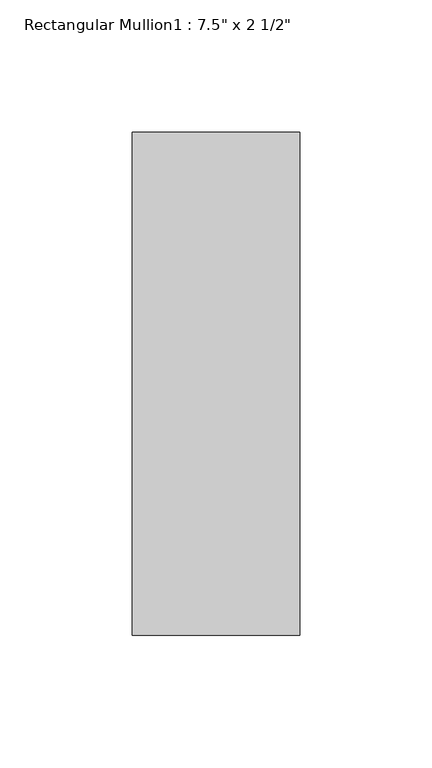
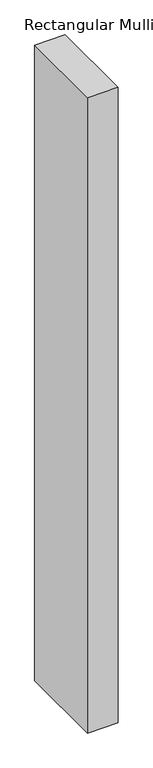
"""IFC4 building model written with IfcOpenShell, lengths in millimetres: member geometry."""

from ifc_helpers import new_model, si_unit, frame, origin, place, context, project, spatial, polyline, outline, extrude, source, transform, mapped, element, save


def member_0346d2da(model_context):
    return source(origin(), model_context, "Body", "SweptSolid", [
        extrude(outline(polyline([(0.0, 165.1), (0.0, -25.4), (-63.5, -25.4), (-63.5, 165.1), (0.0, 165.1)])), frame((0.0, 0.0, -1397.0), z_axis=(0.0, 0.0, 1.0), x_axis=(1.0, 0.0, 0.0)), (0.0, 0.0, 1.0), 1397.0),
    ])


if __name__ == "__main__":
    model = new_model("IFC4")
    model_context = context("Model", 3, world=origin())
    ifc_project = project(units=[si_unit("LENGTHUNIT", "METRE", prefix="MILLI")], contexts=[model_context])
    site = spatial("IfcSite", under=ifc_project)
    building = spatial("IfcBuilding", under=site)
    placement = place(None, origin())
    member_shape = member_0346d2da(model_context)
    element("IfcMember", 1, ObjectType="Rectangular Mullion1 : 7.5\" x 2 1/2\"", at=placement, inside=building, context=model_context, shape_type="MappedRepresentation", body=[
        mapped(member_shape, transform((0.0, 0.0, 0.0), x_axis=(1.0, 0.0, 0.0), y_axis=(0.0, 1.0, 0.0), z_axis=(0.0, 0.0, 1.0))),
    ])
    save(model, "model.ifc")
